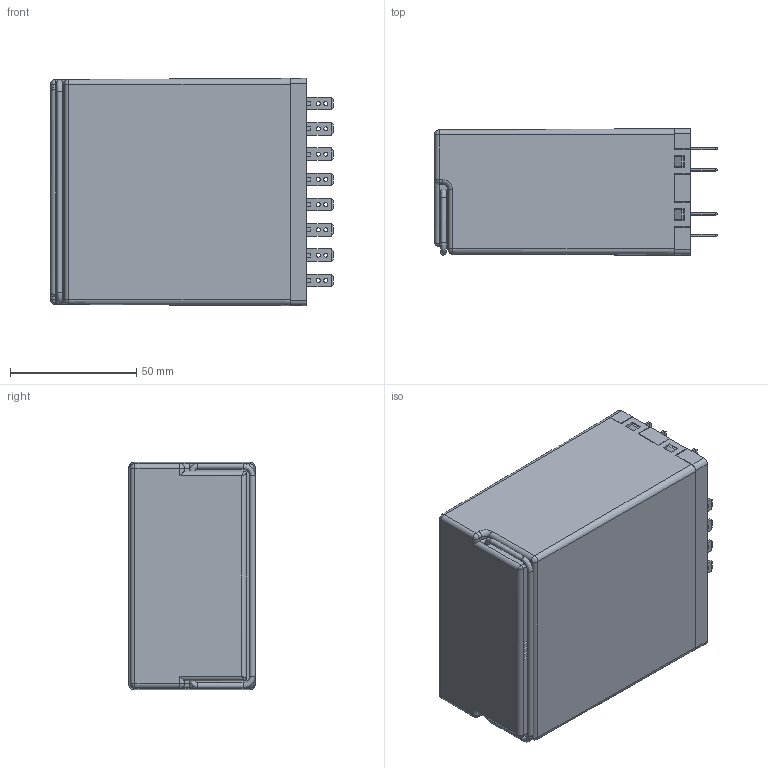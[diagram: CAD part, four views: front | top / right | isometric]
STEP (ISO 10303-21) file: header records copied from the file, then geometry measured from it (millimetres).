
FILE_DESCRIPTION (( 'STEP AP203' ), '1' );
FILE_NAME ('RELE BJ8R.STEP', '2017-04-12T10:43:59', ( 'arteche' ), ( '' ), 'SwSTEP 2.0', 'SolidWorks 2013', '' );
FILE_SCHEMA (( 'CONFIG_CONTROL_DESIGN' ));
Products named in the file (1): RELE BJ8R
Bounding box: 112 x 50 x 90.07 mm (x, y, z)
Surface area: 66208.1 mm2
Topology: 35 solids, 36 shells, 1611 faces, 4255 edges, 2812 vertices
Faces by surface type: plane 1079, cylinder 268, bspline 248, cone 16
Full cylindrical faces by diameter (mm): 1.6 x56, 2.2 x5, 2.53 x16, 3 x4, 3.3 x8, 6 x4
Entity records: 51251 total; most frequent: CARTESIAN_POINT 12849, ORIENTED_EDGE 8264, DIRECTION 6842, EDGE_CURVE 4132, LINE 3522, VECTOR 3522, VERTEX_POINT 2800, EDGE_LOOP 1986
